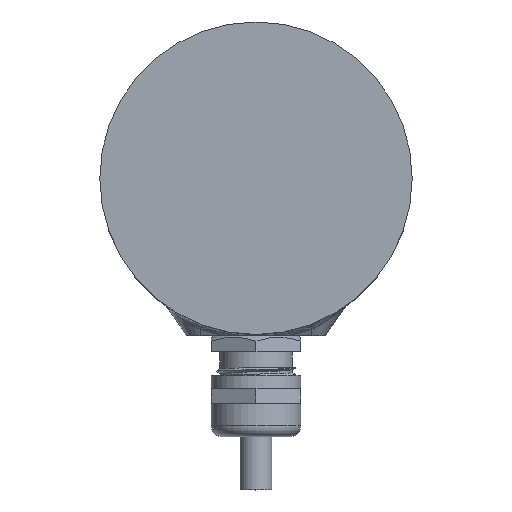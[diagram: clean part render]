
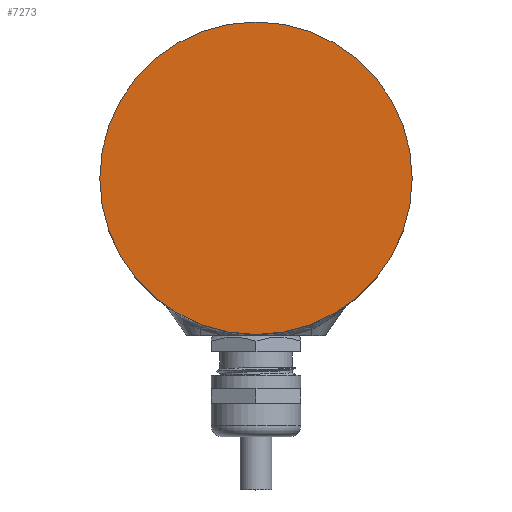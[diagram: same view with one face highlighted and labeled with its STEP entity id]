
A CAD part, top view. The second image highlights one B-rep face of the part: STEP entity #7273.
In plain terms, the highlighted planar face has unit normal (0, 0, 1).
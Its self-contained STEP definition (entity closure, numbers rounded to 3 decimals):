
#7261 = EDGE_CURVE ( 'NONE', #7270, #7263, #9819, .T. ) ;
#7263 = VERTEX_POINT ( 'NONE', #9814 ) ;
#7270 = VERTEX_POINT ( 'NONE', #9868 ) ;
#7273 = ADVANCED_FACE ( 'NONE', ( #9863 ), #9862, .T. ) ;
#7274 = ORIENTED_EDGE ( 'NONE', *, *, #7338, .T. ) ;
#7338 = EDGE_CURVE ( 'NONE', #7263, #7270, #10099, .T. ) ;
#7339 = ORIENTED_EDGE ( 'NONE', *, *, #7261, .T. ) ;
#7347 = EDGE_LOOP ( 'NONE', ( #7274, #7339 ) ) ;
#9814 = CARTESIAN_POINT ( 'NONE',  ( 29.3, 0., 43.2 ) ) ;
#9815 = DIRECTION ( 'NONE',  ( -1., 0., 0. ) ) ;
#9816 = DIRECTION ( 'NONE',  ( 0., 0., 1. ) ) ;
#9817 = CARTESIAN_POINT ( 'NONE',  ( 0., 0., 43.2 ) ) ;
#9818 = AXIS2_PLACEMENT_3D ( 'NONE', #9817, #9816, #9815 ) ;
#9819 = CIRCLE ( 'NONE', #9818, 29.3 ) ;
#9858 = DIRECTION ( 'NONE',  ( -1., 0., 0. ) ) ;
#9859 = DIRECTION ( 'NONE',  ( 0., 0., 1. ) ) ;
#9860 = CARTESIAN_POINT ( 'NONE',  ( 0., 0., 43.2 ) ) ;
#9861 = AXIS2_PLACEMENT_3D ( 'NONE', #9860, #9859, #9858 ) ;
#9862 = PLANE ( 'NONE',  #9861 ) ;
#9863 = FACE_OUTER_BOUND ( 'NONE', #7347, .T. ) ;
#9868 = CARTESIAN_POINT ( 'NONE',  ( -29.3, 0., 43.2 ) ) ;
#10095 = DIRECTION ( 'NONE',  ( -1., 0., 0. ) ) ;
#10096 = DIRECTION ( 'NONE',  ( 0., 0., 1. ) ) ;
#10097 = CARTESIAN_POINT ( 'NONE',  ( 0., 0., 43.2 ) ) ;
#10098 = AXIS2_PLACEMENT_3D ( 'NONE', #10097, #10096, #10095 ) ;
#10099 = CIRCLE ( 'NONE', #10098, 29.3 ) ;
